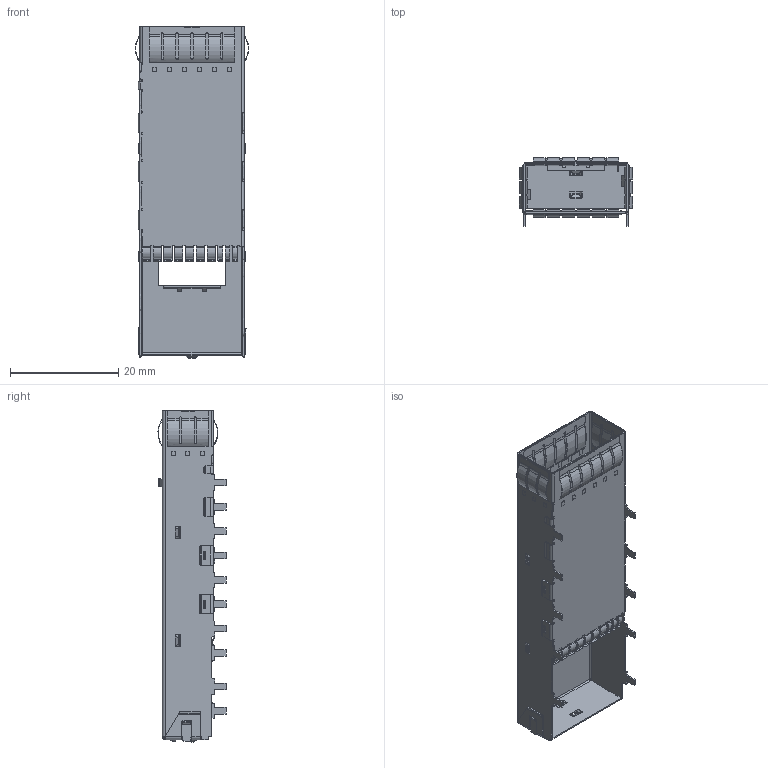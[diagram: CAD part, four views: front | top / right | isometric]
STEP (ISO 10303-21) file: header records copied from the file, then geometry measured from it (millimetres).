
FILE_DESCRIPTION (( 'STEP AP214' ), '1' );
FILE_NAME ('QSFP28 1X1压接脚 后0脚 顶部散热方孔 3D.STEP', '2026-03-06T06:43:22', ( '桑三博客' ), ( 'Www.SangSan.Cn' ), 'SwSTEP 2.0', 'SolidWorks 2018', '' );
FILE_SCHEMA (( 'AUTOMOTIVE_DESIGN' ));
Length unit declared in the file: millimetre
Products named in the file (1): QSFP28 1X1压接脚 后0脚 顶部散热方孔 3D
Bounding box: 20.91 x 12.58 x 61.37 mm (x, y, z)
Volume: 782.1 mm3; surface area: 6990 mm2
Topology: 1 solids, 1 shells, 1885 faces, 4880 edges, 2948 vertices
Faces by surface type: plane 1124, cylinder 670, bspline 63, sphere 28
Entity records: 59054 total; most frequent: CARTESIAN_POINT 12895, ORIENTED_EDGE 9748, DIRECTION 9630, EDGE_CURVE 4874, AXIS2_PLACEMENT_3D 3213, LINE 3204, VECTOR 3204, VERTEX_POINT 2946
